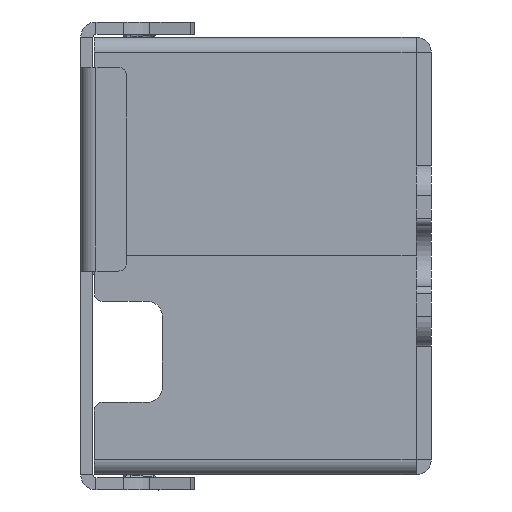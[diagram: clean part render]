
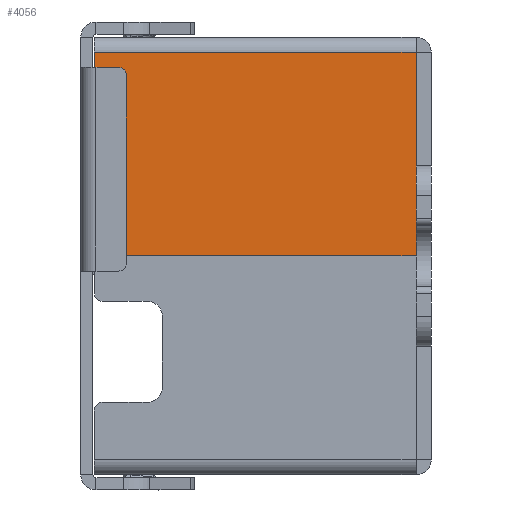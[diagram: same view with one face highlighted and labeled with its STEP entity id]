
A CAD part, left-side view. The second image highlights one B-rep face of the part: STEP entity #4056.
In plain terms, the highlighted planar face has unit normal (-1, 0, 0).
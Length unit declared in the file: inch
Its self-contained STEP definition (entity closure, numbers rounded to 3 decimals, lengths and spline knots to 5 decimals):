
#1026=DIRECTION('',(0.,1.,0.));
#1027=VECTOR('',#1026,0.83858);
#1028=CARTESIAN_POINT('',(-1.92913,0.03937,
0.5315));
#1029=LINE('',#1028,#1027);
#1040=DIRECTION('',(0.,0.,1.));
#1041=VECTOR('',#1040,0.5315);
#1042=CARTESIAN_POINT('',(-1.92913,0.87795,0.));
#1043=LINE('',#1042,#1041);
#1047=DIRECTION('',(0.,0.,-1.));
#1048=VECTOR('',#1047,0.5315);
#1049=CARTESIAN_POINT('',(-1.92913,0.03937,
0.5315));
#1050=LINE('',#1049,#1048);
#1054=DIRECTION('',(0.,1.,0.));
#1055=VECTOR('',#1054,0.83858);
#1056=CARTESIAN_POINT('',(-1.92913,0.03937,0.));
#1057=LINE('',#1056,#1055);
#2682=CARTESIAN_POINT('',(-1.92913,0.03937,
0.5315));
#2683=CARTESIAN_POINT('',(-1.92913,0.87795,
0.5315));
#2684=VERTEX_POINT('',#2682);
#2685=VERTEX_POINT('',#2683);
#2686=CARTESIAN_POINT('',(-1.92913,0.87795,0.));
#2687=VERTEX_POINT('',#2686);
#2688=CARTESIAN_POINT('',(-1.92913,0.03937,0.));
#2689=VERTEX_POINT('',#2688);
#4042=CARTESIAN_POINT('',(-1.92913,0.87795,
0.57087));
#4043=DIRECTION('',(-1.,0.,0.));
#4044=DIRECTION('',(0.,1.,0.));
#4045=AXIS2_PLACEMENT_3D('',#4042,#4043,#4044);
#4046=PLANE('',#4045);
#4048=ORIENTED_EDGE('',*,*,#4047,.T.);
#4049=ORIENTED_EDGE('',*,*,#4025,.F.);
#4051=ORIENTED_EDGE('',*,*,#4050,.T.);
#4053=ORIENTED_EDGE('',*,*,#4052,.T.);
#4054=EDGE_LOOP('',(#4048,#4049,#4051,#4053));
#4055=FACE_OUTER_BOUND('',#4054,.F.);
#4056=ADVANCED_FACE('',(#4055),#4046,.T.);
#4025=EDGE_CURVE('',#2684,#2685,#1029,.T.);
#4047=EDGE_CURVE('',#2687,#2685,#1043,.T.);
#4050=EDGE_CURVE('',#2684,#2689,#1050,.T.);
#4052=EDGE_CURVE('',#2689,#2687,#1057,.T.);
